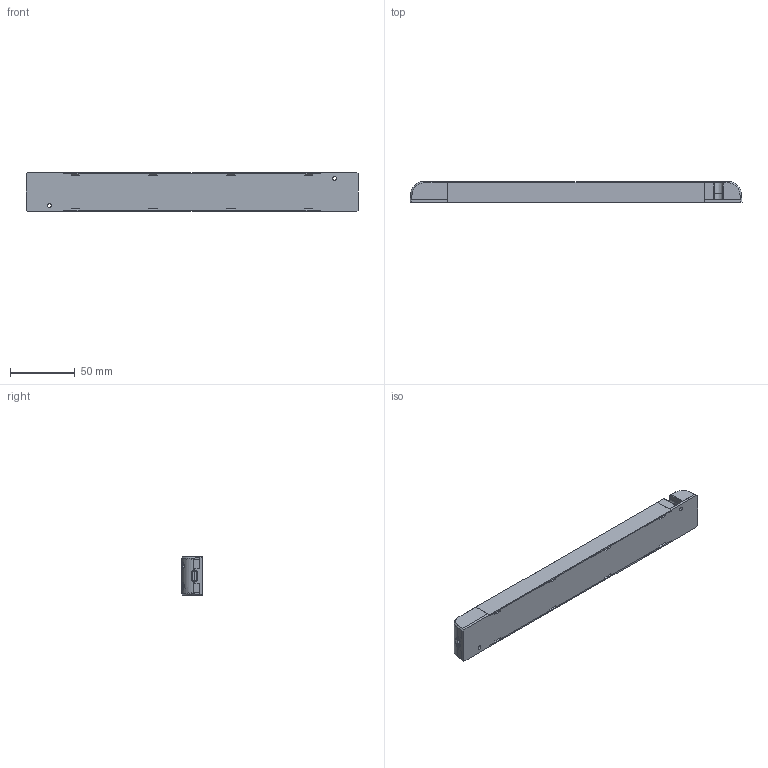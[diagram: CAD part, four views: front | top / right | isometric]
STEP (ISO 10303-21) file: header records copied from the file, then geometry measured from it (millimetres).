
FILE_DESCRIPTION (( 'STEP AP203' ), '1' );
FILE_NAME ('30W Trafo.STEP', '2021-02-08T10:49:37', ( '' ), ( '' ), 'SwSTEP 2.0', 'SolidWorks 2018', '' );
FILE_SCHEMA (( 'CONFIG_CONTROL_DESIGN' ));
Length unit declared in the file: millimetre
Products named in the file (13): PRT0002.stp; XIAGAI.stp; ED-SS_30W24V_V03_.stp; PCB_ASM.stp; SANREPIAN.stp; JIXIANZHU1.stp; 30W Trafo; JIXIANZHU2.stp; PCB.stp; SHANGGAI.stp; Trafo 30W.stp; DUANGAI.stp; SANJIGUAN.stp
Assembly tree (13 placements, depth 4):
  30W Trafo
    Trafo 30W.stp
      PCB_ASM.stp
        ED-SS_30W24V_V03_.stp
        PCB.stp
        JIXIANZHU1.stp
        JIXIANZHU2.stp
        PRT0002.stp
        SANJIGUAN.stp
        SANREPIAN.stp
      SHANGGAI.stp
      XIAGAI.stp
      DUANGAI.stp  x2
Bounding box: 256 x 16 x 30 mm (x, y, z)
Volume: 48374.3 mm3; surface area: 88155.5 mm2
Topology: 11 solids, 11 shells, 1488 faces, 4094 edges, 2644 vertices
Faces by surface type: plane 922, cylinder 417, cone 82, bspline 53, torus 10, sphere 4
Entity records: 48686 total; most frequent: CARTESIAN_POINT 13387, ORIENTED_EDGE 7314, DIRECTION 6612, EDGE_CURVE 3657, VECTOR 2564, LINE 2564, VERTEX_POINT 2366, AXIS2_PLACEMENT_3D 2024
